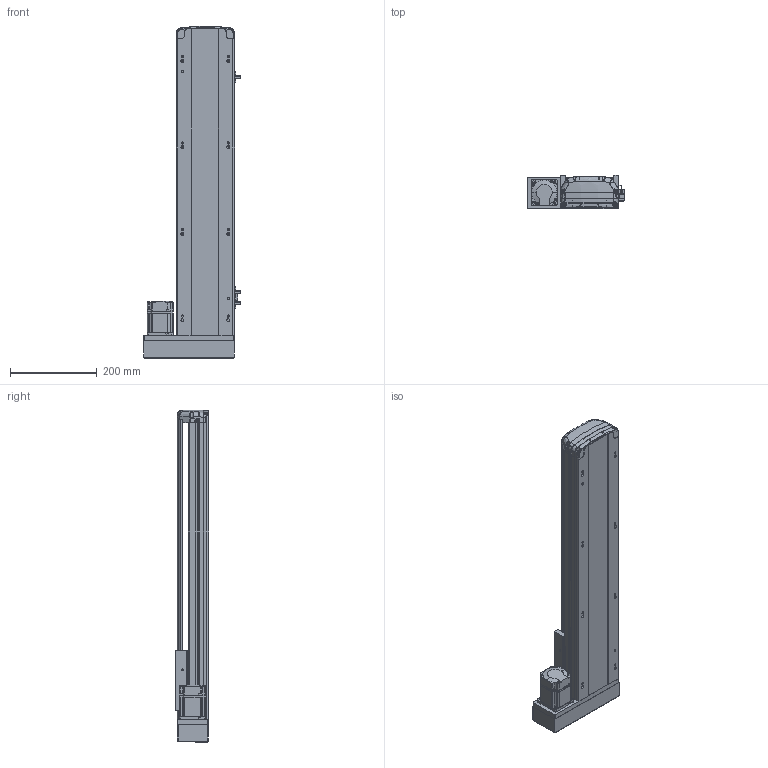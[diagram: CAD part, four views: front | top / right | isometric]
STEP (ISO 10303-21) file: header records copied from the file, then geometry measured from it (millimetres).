
FILE_DESCRIPTION (( 'STEP AP214' ), '1' );
FILE_NAME ('RTH14-XX-500-L-M20-C4.STEP', '2025-10-25T02:37:57', ( 'Microsoft' ), ( 'Microsoft' ), 'SwSTEP 2.0', 'SolidWorks 2018', '' );
FILE_SCHEMA (( 'AUTOMOTIVE_DESIGN' ));
Length unit declared in the file: millimetre
Products named in the file (10): N_RTH14-M-011P菁釱^RTH14-XX-XX-L-M20-C4; N_RTH13-L-008-P20 萇儂啣酘蛌殏^RTH14-XX-XX-L-M20-C4; N_RTH14-M-007P奻裔^RTH14-XX-XX-L-M20-C4; N_RTH14-R-004-SFSR16賑釱^RTH14-XX-XX-L-M20-C4; N_RTH13-L-018 裔赽^RTH14-XX-XX-L-M20-C4; N_RTH13-L-012感应片（外置）^RTH14-XX-XX-L-M20-C4; N_OMRON EE-SX672 传感器^RTH14-XX-XX-L-M20-C4; N_RTH14-GY-001P^RTH14-XX-XX-L-M20-C4; N_MSMD022P1AA_200W^RTH14-XX-XX-L-M20-C4; RTH14-XX-500-L-M20-C4
Assembly tree (11 placements, depth 2):
  RTH14-XX-500-L-M20-C4
    N_RTH14-M-011P菁釱^RTH14-XX-XX-L-M20-C4
    N_RTH14-M-007P奻裔^RTH14-XX-XX-L-M20-C4
    N_MSMD022P1AA_200W^RTH14-XX-XX-L-M20-C4
    N_RTH13-L-008-P20 萇儂啣酘蛌殏^RTH14-XX-XX-L-M20-C4
    N_RTH13-L-018 裔赽^RTH14-XX-XX-L-M20-C4
    N_RTH13-L-012感应片（外置）^RTH14-XX-XX-L-M20-C4
    N_OMRON EE-SX672 传感器^RTH14-XX-XX-L-M20-C4  x3
    N_RTH14-GY-001P^RTH14-XX-XX-L-M20-C4
    N_RTH14-R-004-SFSR16賑釱^RTH14-XX-XX-L-M20-C4
Bounding box: 224 x 78.03 x 767.37 mm (x, y, z)
Volume: 3581092.3 mm3; surface area: 841138.5 mm2
Topology: 11 solids, 11 shells, 1854 faces, 5177 edges, 3390 vertices
Faces by surface type: plane 987, cylinder 473, bspline 345, cone 45, torus 4
Entity records: 56431 total; most frequent: CARTESIAN_POINT 22863, ORIENTED_EDGE 7422, DIRECTION 5924, EDGE_CURVE 3711, VERTEX_POINT 2426, LINE 2140, VECTOR 2140, AXIS2_PLACEMENT_3D 1892
